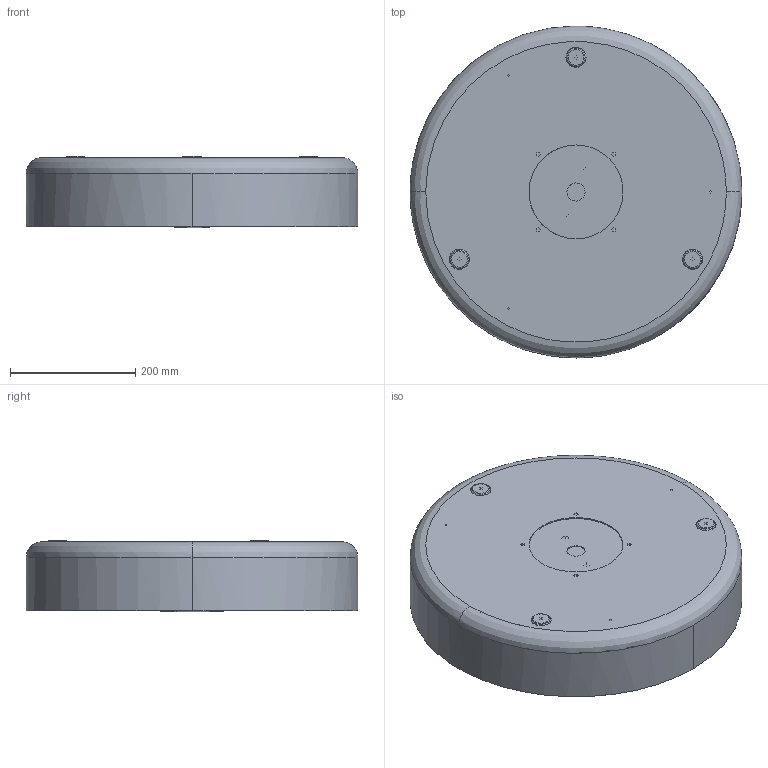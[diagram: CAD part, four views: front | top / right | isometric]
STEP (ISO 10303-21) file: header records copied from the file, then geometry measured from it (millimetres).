
FILE_DESCRIPTION(/* description */ (''),/* implementation_level */ '2;1');
FILE_NAME(/* name */ 'P092__~1',/* time_stamp */ '2024-07-01T14:27:33+02:00',/* author */ (''),/* organization */ (''),/* preprocessor_version */ 'ST-DEVELOPER v16.5',/* originating_system */ '',/* authorisation */ '');
FILE_SCHEMA (('AUTOMOTIVE_DESIGN'));
Length unit declared in the file: millimetre
Products named in the file (1): Document
Bounding box: 530 x 530 x 114.3 mm (x, y, z)
Volume: 2017198.5 mm3; surface area: 2083333.2 mm2
Topology: 5 solids, 5 shells, 424 faces, 1087 edges, 681 vertices
Faces by surface type: bspline 281, plane 143
Entity records: 21376 total; most frequent: CARTESIAN_POINT 14933, ORIENTED_EDGE 2164, EDGE_CURVE 1082, VERTEX_POINT 680, EDGE_LOOP 554, B_SPLINE_CURVE_WITH_KNOTS 504, ADVANCED_FACE 424, FACE_OUTER_BOUND 424
